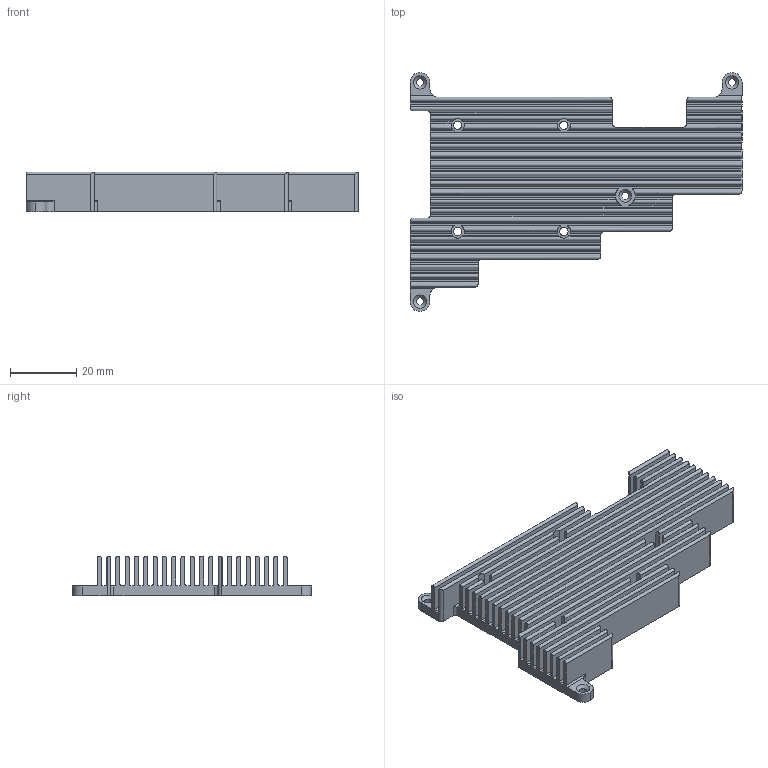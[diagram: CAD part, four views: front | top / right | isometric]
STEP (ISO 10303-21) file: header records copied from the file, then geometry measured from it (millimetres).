
FILE_DESCRIPTION(('STEP AP214'),'1');
FILE_NAME('B.MKUE.13-REV100_3D.stp','2026-03-27T07:05:12',(' '),(' '),'Spatial InterOp 3D',' ',' ');
FILE_SCHEMA(('AUTOMOTIVE_DESIGN { 1 0 10303 214 1 1 1 1 }'));
Length unit declared in the file: metre
Products named in the file (1): Heatspreader
Bounding box: 100 x 72 x 12 mm (x, y, z)
Volume: 28302.2 mm3; surface area: 35706.5 mm2
Topology: 1 solids, 1 shells, 250 faces, 740 edges, 494 vertices
Faces by surface type: cylinder 143, plane 102, cone 4, torus 1
Full cylindrical faces by diameter (mm): 2.2 x4, 2.5 x4
Entity records: 10869 total; most frequent: CARTESIAN_POINT 2120, ORIENTED_EDGE 1446, DIRECTION 1371, EDGE_CURVE 723, VERTEX_POINT 490, AXIS2_PLACEMENT_3D 465, LINE 441, VECTOR 441
